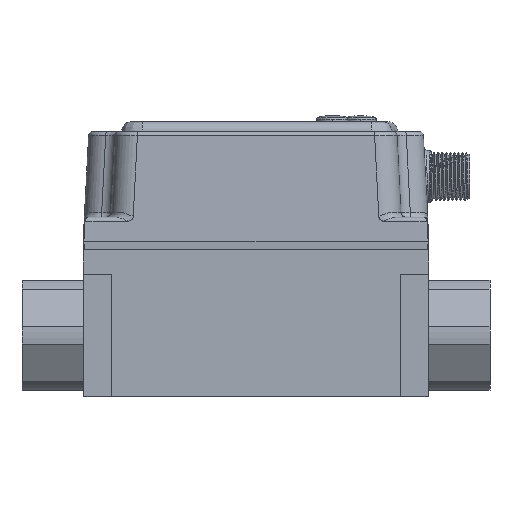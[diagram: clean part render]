
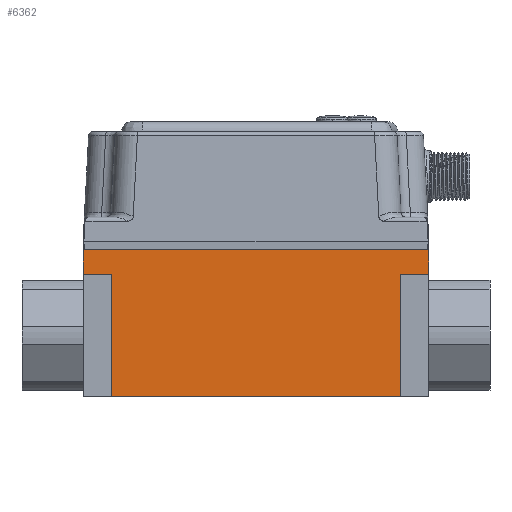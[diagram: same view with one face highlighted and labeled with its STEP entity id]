
A CAD part, front view. The second image highlights one B-rep face of the part: STEP entity #6362.
In plain terms, the highlighted planar face has unit normal (0, -1, 0).
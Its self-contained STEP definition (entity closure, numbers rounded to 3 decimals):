
#470=DIRECTION('',(-1.,0.,0.));
#471=VECTOR('',#470,7.);
#472=CARTESIAN_POINT('',(-41.,-21.5,-4.4));
#473=LINE('',#472,#471);
#514=DIRECTION('',(0.,0.,1.));
#515=VECTOR('',#514,30.);
#516=CARTESIAN_POINT('',(-41.,-21.5,-34.4));
#517=LINE('',#516,#515);
#984=DIRECTION('',(0.,0.,-1.));
#985=VECTOR('',#984,6.);
#986=CARTESIAN_POINT('',(-48.,-21.5,1.6));
#987=LINE('',#986,#985);
#988=DIRECTION('',(-1.,0.,0.));
#989=VECTOR('',#988,85.);
#990=CARTESIAN_POINT('',(37.,-21.5,1.6));
#991=LINE('',#990,#989);
#992=DIRECTION('',(0.,0.,1.));
#993=VECTOR('',#992,30.);
#994=CARTESIAN_POINT('',(30.,-21.5,-34.4));
#995=LINE('',#994,#993);
#996=DIRECTION('',(1.,0.,0.));
#997=VECTOR('',#996,71.);
#998=CARTESIAN_POINT('',(-41.,-21.5,-34.4));
#999=LINE('',#998,#997);
#1004=DIRECTION('',(0.,0.,-1.));
#1005=VECTOR('',#1004,6.);
#1006=CARTESIAN_POINT('',(37.,-21.5,1.6));
#1007=LINE('',#1006,#1005);
#1172=DIRECTION('',(-1.,0.,0.));
#1173=VECTOR('',#1172,7.);
#1174=CARTESIAN_POINT('',(37.,-21.5,-4.4));
#1175=LINE('',#1174,#1173);
#4859=CARTESIAN_POINT('',(-41.,-21.5,-34.4));
#4860=CARTESIAN_POINT('',(30.,-21.5,-34.4));
#4861=VERTEX_POINT('',#4859);
#4862=VERTEX_POINT('',#4860);
#4912=CARTESIAN_POINT('',(30.,-21.5,-4.4));
#4913=VERTEX_POINT('',#4912);
#4914=CARTESIAN_POINT('',(-41.,-21.5,-4.4));
#4915=VERTEX_POINT('',#4914);
#4916=CARTESIAN_POINT('',(37.,-21.5,-4.4));
#4917=VERTEX_POINT('',#4916);
#4918=CARTESIAN_POINT('',(37.,-21.5,1.6));
#4919=VERTEX_POINT('',#4918);
#4920=CARTESIAN_POINT('',(-48.,-21.5,1.6));
#4921=VERTEX_POINT('',#4920);
#4922=CARTESIAN_POINT('',(-48.,-21.5,-4.4));
#4923=VERTEX_POINT('',#4922);
#6344=CARTESIAN_POINT('',(19.,-21.5,-24.));
#6345=DIRECTION('',(0.,1.,0.));
#6346=DIRECTION('',(1.,0.,0.));
#6347=AXIS2_PLACEMENT_3D('',#6344,#6345,#6346);
#6348=PLANE('',#6347);
#6349=ORIENTED_EDGE('',*,*,#6031,.T.);
#6350=ORIENTED_EDGE('',*,*,#6006,.T.);
#6351=ORIENTED_EDGE('',*,*,#5991,.F.);
#6352=ORIENTED_EDGE('',*,*,#5903,.F.);
#6354=ORIENTED_EDGE('',*,*,#6353,.T.);
#6356=ORIENTED_EDGE('',*,*,#6355,.T.);
#6357=ORIENTED_EDGE('',*,*,#6311,.F.);
#6359=ORIENTED_EDGE('',*,*,#6358,.F.);
#6360=EDGE_LOOP('',(#6349,#6350,#6351,#6352,#6354,#6356,#6357,#6359));
#6361=FACE_OUTER_BOUND('',#6360,.F.);
#6362=ADVANCED_FACE('',(#6361),#6348,.F.);
#5903=EDGE_CURVE('',#4919,#4921,#991,.T.);
#5991=EDGE_CURVE('',#4921,#4923,#987,.T.);
#6006=EDGE_CURVE('',#4915,#4923,#473,.T.);
#6031=EDGE_CURVE('',#4861,#4915,#517,.T.);
#6311=EDGE_CURVE('',#4862,#4913,#995,.T.);
#6353=EDGE_CURVE('',#4919,#4917,#1007,.T.);
#6355=EDGE_CURVE('',#4917,#4913,#1175,.T.);
#6358=EDGE_CURVE('',#4861,#4862,#999,.T.);
